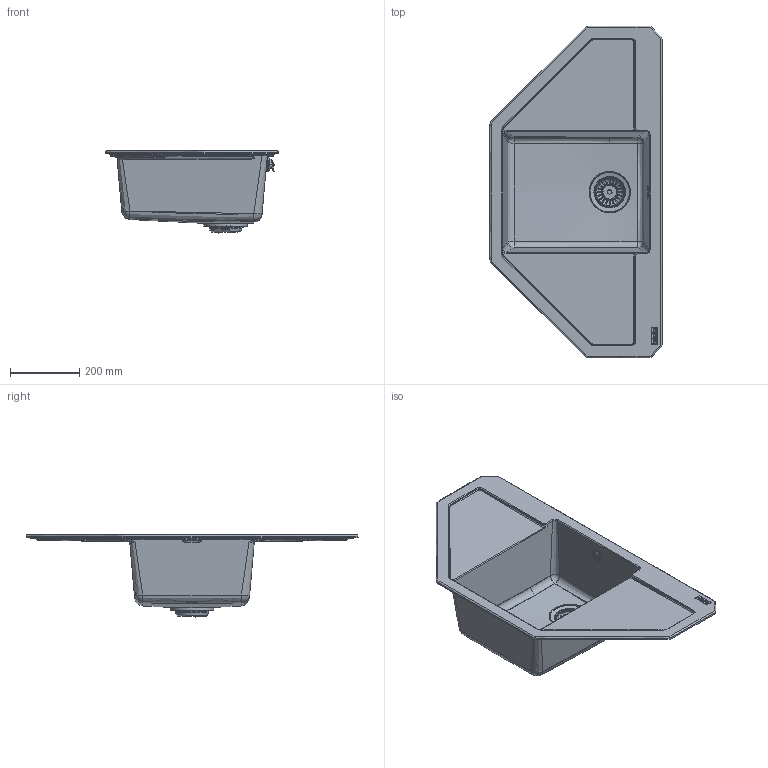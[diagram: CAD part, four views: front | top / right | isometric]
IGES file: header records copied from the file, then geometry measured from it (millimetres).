
Global section: file name: F:\_CONVERSIONE_CAD_2024_2025\_2024\03_3D kits new\Sinks\MARIS\114.0706.774 3D001_Sinks_Maris_MRG-612-E\3D001_Sinks_Maris_MRG-612-E.igs; native system: Rhinoceros ( Jun 11 2024 ); preprocessor: Trout Lake IGES 012 Jun 11 2024; date: 240730.151103; units: millimetre
Bounding box: 500 x 960 x 238.23 mm (x, y, z)
Surface area: 1354055.5 mm2 (no closed solid volume)
Topology: 0 solids, 0 shells, 1741 faces, 10584 edges, 10478 vertices
Faces by surface type: bspline 1741
